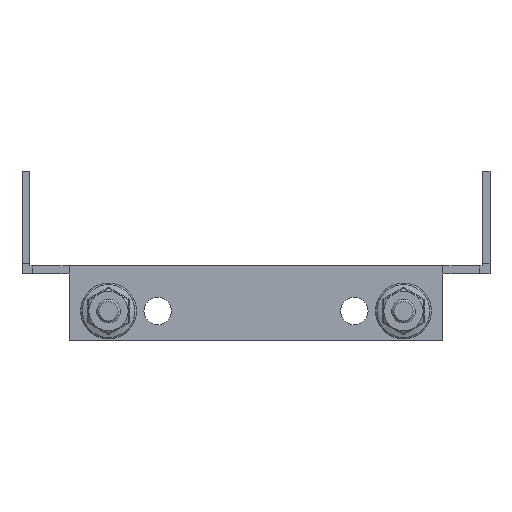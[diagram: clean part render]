
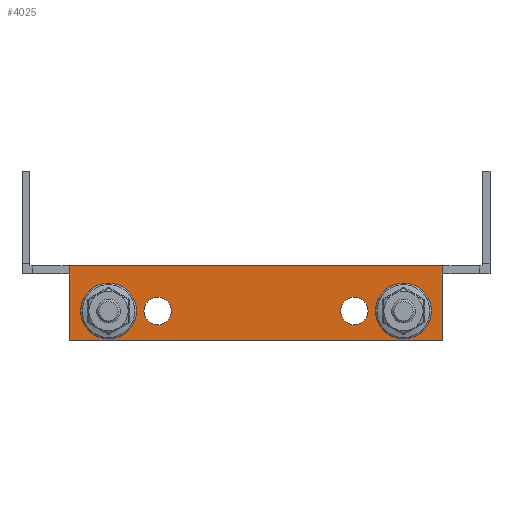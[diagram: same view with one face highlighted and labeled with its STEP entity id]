
A CAD part, left-side view. The second image highlights one B-rep face of the part: STEP entity #4025.
In plain terms, the highlighted planar face has unit normal (-1, 0, 0).
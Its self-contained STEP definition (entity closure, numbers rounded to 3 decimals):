
#752 = VERTEX_POINT('',#753);
#753 = CARTESIAN_POINT('',(-100.,47.5,2.));
#759 = EDGE_CURVE('',#760,#752,#762,.T.);
#760 = VERTEX_POINT('',#761);
#761 = CARTESIAN_POINT('',(-100.,-47.5,2.));
#762 = LINE('',#763,#764);
#763 = CARTESIAN_POINT('',(-100.,-57.5,2.));
#764 = VECTOR('',#765,1.);
#765 = DIRECTION('',(0.,1.,-0.));
#3904 = VERTEX_POINT('',#3905);
#3905 = CARTESIAN_POINT('',(-100.,-47.5,-0.6));
#3920 = EDGE_CURVE('',#3904,#760,#3921,.T.);
#3921 = LINE('',#3922,#3923);
#3922 = CARTESIAN_POINT('',(-100.,-47.5,-0.6));
#3923 = VECTOR('',#3924,1.);
#3924 = DIRECTION('',(0.,-0.,1.));
#3944 = VERTEX_POINT('',#3945);
#3945 = CARTESIAN_POINT('',(-100.,47.5,-0.6));
#3951 = EDGE_CURVE('',#3944,#752,#3952,.T.);
#3952 = LINE('',#3953,#3954);
#3953 = CARTESIAN_POINT('',(-100.,47.5,0.));
#3954 = VECTOR('',#3955,1.);
#3955 = DIRECTION('',(0.,0.,1.));
#3967 = EDGE_CURVE('',#3968,#3944,#3970,.T.);
#3968 = VERTEX_POINT('',#3969);
#3969 = CARTESIAN_POINT('',(-100.,47.5,-17.));
#3970 = LINE('',#3971,#3972);
#3971 = CARTESIAN_POINT('',(-100.,47.5,0.));
#3972 = VECTOR('',#3973,1.);
#3973 = DIRECTION('',(0.,0.,1.));
#4007 = EDGE_CURVE('',#3904,#4008,#4010,.T.);
#4008 = VERTEX_POINT('',#4009);
#4009 = CARTESIAN_POINT('',(-100.,-47.5,-17.));
#4010 = LINE('',#4011,#4012);
#4011 = CARTESIAN_POINT('',(-100.,-47.5,-17.));
#4012 = VECTOR('',#4013,1.);
#4013 = DIRECTION('',(0.,0.,-1.));
#4025 = ADVANCED_FACE('',(#4026,#4046,#4066,#4077,#4088),#4101,.T.);
#4026 = FACE_BOUND('',#4027,.T.);
#4027 = EDGE_LOOP('',(#4028,#4039));
#4028 = ORIENTED_EDGE('',*,*,#4029,.F.);
#4029 = EDGE_CURVE('',#4030,#4032,#4034,.T.);
#4030 = VERTEX_POINT('',#4031);
#4031 = CARTESIAN_POINT('',(-100.,-37.5,-13.));
#4032 = VERTEX_POINT('',#4033);
#4033 = CARTESIAN_POINT('',(-100.,-37.5,-6.));
#4034 = CIRCLE('',#4035,3.5);
#4035 = AXIS2_PLACEMENT_3D('',#4036,#4037,#4038);
#4036 = CARTESIAN_POINT('',(-100.,-37.5,-9.5));
#4037 = DIRECTION('',(-1.,0.,0.));
#4038 = DIRECTION('',(0.,0.,-1.));
#4039 = ORIENTED_EDGE('',*,*,#4040,.F.);
#4040 = EDGE_CURVE('',#4032,#4030,#4041,.T.);
#4041 = CIRCLE('',#4042,3.5);
#4042 = AXIS2_PLACEMENT_3D('',#4043,#4044,#4045);
#4043 = CARTESIAN_POINT('',(-100.,-37.5,-9.5));
#4044 = DIRECTION('',(-1.,0.,0.));
#4045 = DIRECTION('',(0.,0.,-1.));
#4046 = FACE_BOUND('',#4047,.T.);
#4047 = EDGE_LOOP('',(#4048,#4059));
#4048 = ORIENTED_EDGE('',*,*,#4049,.F.);
#4049 = EDGE_CURVE('',#4050,#4052,#4054,.T.);
#4050 = VERTEX_POINT('',#4051);
#4051 = CARTESIAN_POINT('',(-100.,-25.,-13.));
#4052 = VERTEX_POINT('',#4053);
#4053 = CARTESIAN_POINT('',(-100.,-25.,-6.));
#4054 = CIRCLE('',#4055,3.5);
#4055 = AXIS2_PLACEMENT_3D('',#4056,#4057,#4058);
#4056 = CARTESIAN_POINT('',(-100.,-25.,-9.5));
#4057 = DIRECTION('',(-1.,0.,0.));
#4058 = DIRECTION('',(0.,0.,-1.));
#4059 = ORIENTED_EDGE('',*,*,#4060,.F.);
#4060 = EDGE_CURVE('',#4052,#4050,#4061,.T.);
#4061 = CIRCLE('',#4062,3.5);
#4062 = AXIS2_PLACEMENT_3D('',#4063,#4064,#4065);
#4063 = CARTESIAN_POINT('',(-100.,-25.,-9.5));
#4064 = DIRECTION('',(-1.,0.,0.));
#4065 = DIRECTION('',(0.,0.,-1.));
#4066 = FACE_BOUND('',#4067,.T.);
#4067 = EDGE_LOOP('',(#4068));
#4068 = ORIENTED_EDGE('',*,*,#4069,.F.);
#4069 = EDGE_CURVE('',#4070,#4070,#4072,.T.);
#4070 = VERTEX_POINT('',#4071);
#4071 = CARTESIAN_POINT('',(-100.,25.,-6.));
#4072 = CIRCLE('',#4073,3.5);
#4073 = AXIS2_PLACEMENT_3D('',#4074,#4075,#4076);
#4074 = CARTESIAN_POINT('',(-100.,25.,-9.5));
#4075 = DIRECTION('',(-1.,0.,0.));
#4076 = DIRECTION('',(0.,0.,1.));
#4077 = FACE_BOUND('',#4078,.T.);
#4078 = EDGE_LOOP('',(#4079));
#4079 = ORIENTED_EDGE('',*,*,#4080,.F.);
#4080 = EDGE_CURVE('',#4081,#4081,#4083,.T.);
#4081 = VERTEX_POINT('',#4082);
#4082 = CARTESIAN_POINT('',(-100.,37.5,-6.));
#4083 = CIRCLE('',#4084,3.5);
#4084 = AXIS2_PLACEMENT_3D('',#4085,#4086,#4087);
#4085 = CARTESIAN_POINT('',(-100.,37.5,-9.5));
#4086 = DIRECTION('',(-1.,0.,0.));
#4087 = DIRECTION('',(0.,0.,1.));
#4088 = FACE_BOUND('',#4089,.T.);
#4089 = EDGE_LOOP('',(#4090,#4091,#4092,#4093,#4094,#4095));
#4090 = ORIENTED_EDGE('',*,*,#4007,.F.);
#4091 = ORIENTED_EDGE('',*,*,#3920,.T.);
#4092 = ORIENTED_EDGE('',*,*,#759,.T.);
#4093 = ORIENTED_EDGE('',*,*,#3951,.F.);
#4094 = ORIENTED_EDGE('',*,*,#3967,.F.);
#4095 = ORIENTED_EDGE('',*,*,#4096,.F.);
#4096 = EDGE_CURVE('',#4008,#3968,#4097,.T.);
#4097 = LINE('',#4098,#4099);
#4098 = CARTESIAN_POINT('',(-100.,47.5,-17.));
#4099 = VECTOR('',#4100,1.);
#4100 = DIRECTION('',(0.,1.,-0.));
#4101 = PLANE('',#4102);
#4102 = AXIS2_PLACEMENT_3D('',#4103,#4104,#4105);
#4103 = CARTESIAN_POINT('',(-100.,47.5,0.));
#4104 = DIRECTION('',(-1.,0.,0.));
#4105 = DIRECTION('',(0.,0.,1.));
